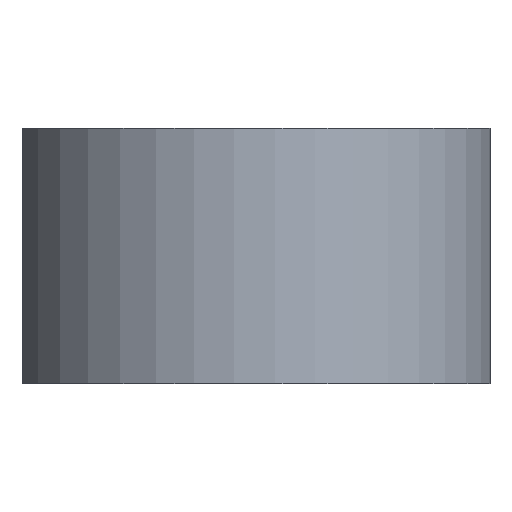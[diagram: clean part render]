
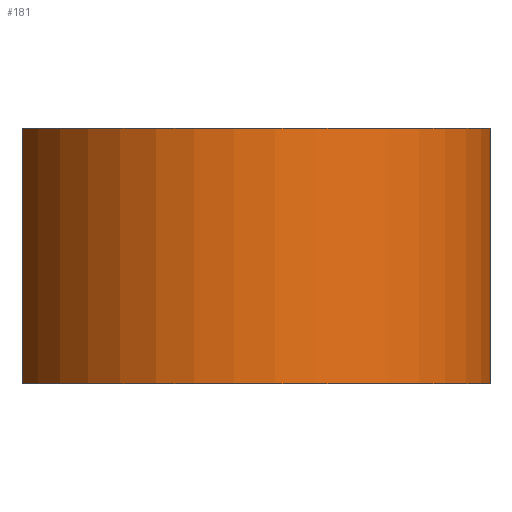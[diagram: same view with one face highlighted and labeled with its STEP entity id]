
A CAD part, left-side view. The second image highlights one B-rep face of the part: STEP entity #181.
In plain terms, the highlighted cylindrical face has radius 4.7 mm (diameter 9.4 mm), a partial arc.
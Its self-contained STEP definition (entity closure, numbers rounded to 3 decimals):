
#21 = EDGE_CURVE('',#22,#24,#26,.T.);
#22 = VERTEX_POINT('',#23);
#23 = CARTESIAN_POINT('',(17.85,19.504,170.925));
#24 = VERTEX_POINT('',#25);
#25 = CARTESIAN_POINT('',(24.05,15.05,170.925));
#26 = CIRCLE('',#27,4.7);
#27 = AXIS2_PLACEMENT_3D('',#28,#29,#30);
#28 = CARTESIAN_POINT('',(19.35,15.05,170.925));
#29 = DIRECTION('',(0.,0.,1.));
#30 = DIRECTION('',(1.,0.,0.));
#32 = EDGE_CURVE('',#24,#33,#35,.T.);
#33 = VERTEX_POINT('',#34);
#34 = CARTESIAN_POINT('',(20.85,19.504,170.925));
#35 = CIRCLE('',#36,4.7);
#36 = AXIS2_PLACEMENT_3D('',#37,#38,#39);
#37 = CARTESIAN_POINT('',(19.35,15.05,170.925));
#38 = DIRECTION('',(0.,0.,1.));
#39 = DIRECTION('',(1.,0.,0.));
#82 = EDGE_CURVE('',#22,#83,#85,.T.);
#83 = VERTEX_POINT('',#84);
#84 = CARTESIAN_POINT('',(17.85,19.504,175.925));
#85 = LINE('',#86,#87);
#86 = CARTESIAN_POINT('',(17.85,19.504,170.925));
#87 = VECTOR('',#88,1.);
#88 = DIRECTION('',(0.,0.,1.));
#112 = EDGE_CURVE('',#83,#113,#115,.T.);
#113 = VERTEX_POINT('',#114);
#114 = CARTESIAN_POINT('',(24.05,15.05,175.925));
#115 = CIRCLE('',#116,4.7);
#116 = AXIS2_PLACEMENT_3D('',#117,#118,#119);
#117 = CARTESIAN_POINT('',(19.35,15.05,175.925));
#118 = DIRECTION('',(0.,0.,1.));
#119 = DIRECTION('',(1.,0.,0.));
#121 = EDGE_CURVE('',#113,#122,#124,.T.);
#122 = VERTEX_POINT('',#123);
#123 = CARTESIAN_POINT('',(20.85,19.504,175.925));
#124 = CIRCLE('',#125,4.7);
#125 = AXIS2_PLACEMENT_3D('',#126,#127,#128);
#126 = CARTESIAN_POINT('',(19.35,15.05,175.925));
#127 = DIRECTION('',(0.,0.,1.));
#128 = DIRECTION('',(1.,0.,0.));
#164 = EDGE_CURVE('',#33,#122,#165,.T.);
#165 = LINE('',#166,#167);
#166 = CARTESIAN_POINT('',(20.85,19.504,170.925));
#167 = VECTOR('',#168,1.);
#168 = DIRECTION('',(0.,0.,1.));
#181 = ADVANCED_FACE('',(#182),#190,.T.);
#182 = FACE_BOUND('',#183,.T.);
#183 = EDGE_LOOP('',(#184,#185,#186,#187,#188,#189));
#184 = ORIENTED_EDGE('',*,*,#32,.T.);
#185 = ORIENTED_EDGE('',*,*,#164,.T.);
#186 = ORIENTED_EDGE('',*,*,#121,.F.);
#187 = ORIENTED_EDGE('',*,*,#112,.F.);
#188 = ORIENTED_EDGE('',*,*,#82,.F.);
#189 = ORIENTED_EDGE('',*,*,#21,.T.);
#190 = CYLINDRICAL_SURFACE('',#191,4.7);
#191 = AXIS2_PLACEMENT_3D('',#192,#193,#194);
#192 = CARTESIAN_POINT('',(19.35,15.05,170.925));
#193 = DIRECTION('',(0.,0.,1.));
#194 = DIRECTION('',(1.,0.,0.));
